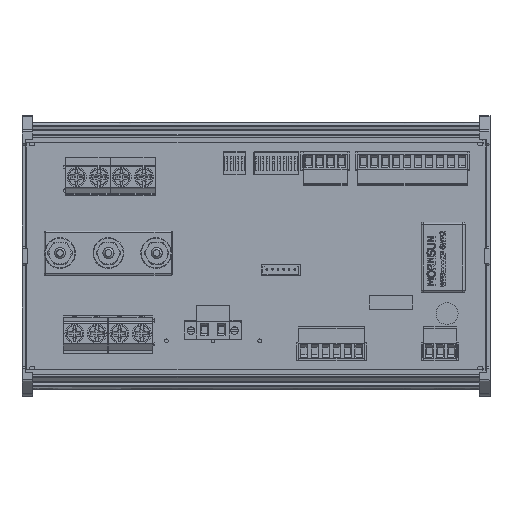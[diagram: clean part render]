
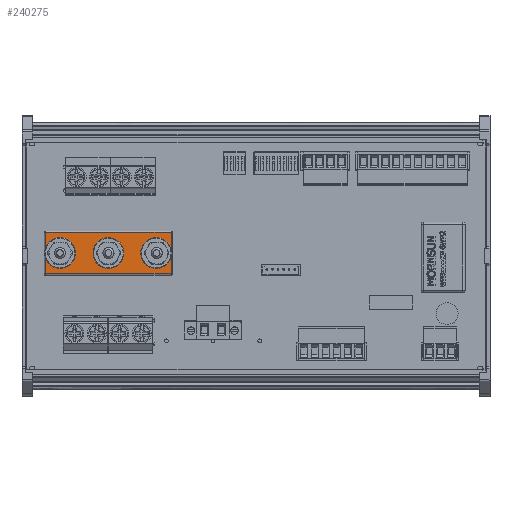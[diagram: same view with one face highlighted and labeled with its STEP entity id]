
A CAD part, top view. The second image highlights one B-rep face of the part: STEP entity #240275.
In plain terms, the highlighted planar face has unit normal (0, 0, 1).
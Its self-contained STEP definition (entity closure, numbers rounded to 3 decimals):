
#239698 = CYLINDRICAL_SURFACE('',#239699,0.5);
#239699 = AXIS2_PLACEMENT_3D('',#239700,#239701,#239702);
#239700 = CARTESIAN_POINT('',(0.5,0.,4.5));
#239701 = DIRECTION('',(0.,1.,0.));
#239702 = DIRECTION('',(-1.,0.,0.));
#239881 = VERTEX_POINT('',#239882);
#239882 = CARTESIAN_POINT('',(0.5,0.5,5.));
#239902 = EDGE_CURVE('',#239881,#239903,#239905,.T.);
#239903 = VERTEX_POINT('',#239904);
#239904 = CARTESIAN_POINT('',(0.5,19.5,5.));
#239905 = SURFACE_CURVE('',#239906,(#239910,#239917),.PCURVE_S1.);
#239906 = LINE('',#239907,#239908);
#239907 = CARTESIAN_POINT('',(0.5,0.,5.));
#239908 = VECTOR('',#239909,1.);
#239909 = DIRECTION('',(0.,1.,0.));
#239910 = PCURVE('',#239698,#239911);
#239911 = DEFINITIONAL_REPRESENTATION('',(#239912),#239916);
#239912 = LINE('',#239913,#239914);
#239913 = CARTESIAN_POINT('',(1.571,0.));
#239914 = VECTOR('',#239915,1.);
#239915 = DIRECTION('',(0.,1.));
#239916 = ( GEOMETRIC_REPRESENTATION_CONTEXT(2) 
PARAMETRIC_REPRESENTATION_CONTEXT() REPRESENTATION_CONTEXT('2D SPACE',''
  ) );
#239917 = PCURVE('',#239918,#239923);
#239918 = PLANE('',#239919);
#239919 = AXIS2_PLACEMENT_3D('',#239920,#239921,#239922);
#239920 = CARTESIAN_POINT('',(0.,0.,5.));
#239921 = DIRECTION('',(0.,0.,1.));
#239922 = DIRECTION('',(1.,0.,0.));
#239923 = DEFINITIONAL_REPRESENTATION('',(#239924),#239928);
#239924 = LINE('',#239925,#239926);
#239925 = CARTESIAN_POINT('',(0.5,0.));
#239926 = VECTOR('',#239927,1.);
#239927 = DIRECTION('',(0.,1.));
#239928 = ( GEOMETRIC_REPRESENTATION_CONTEXT(2) 
PARAMETRIC_REPRESENTATION_CONTEXT() REPRESENTATION_CONTEXT('2D SPACE',''
  ) );
#240082 = CYLINDRICAL_SURFACE('',#240083,0.5);
#240083 = AXIS2_PLACEMENT_3D('',#240084,#240085,#240086);
#240084 = CARTESIAN_POINT('',(0.,0.5,4.5));
#240085 = DIRECTION('',(1.,0.,0.));
#240086 = DIRECTION('',(0.,-1.,0.));
#240275 = ADVANCED_FACE('',(#240276),#239918,.T.);
#240276 = FACE_BOUND('',#240277,.T.);
#240277 = EDGE_LOOP('',(#240278,#240279,#240302,#240330));
#240278 = ORIENTED_EDGE('',*,*,#239902,.F.);
#240279 = ORIENTED_EDGE('',*,*,#240280,.T.);
#240280 = EDGE_CURVE('',#239881,#240281,#240283,.T.);
#240281 = VERTEX_POINT('',#240282);
#240282 = CARTESIAN_POINT('',(57.8,0.5,5.));
#240283 = SURFACE_CURVE('',#240284,(#240288,#240295),.PCURVE_S1.);
#240284 = LINE('',#240285,#240286);
#240285 = CARTESIAN_POINT('',(0.,0.5,5.));
#240286 = VECTOR('',#240287,1.);
#240287 = DIRECTION('',(1.,0.,0.));
#240288 = PCURVE('',#239918,#240289);
#240289 = DEFINITIONAL_REPRESENTATION('',(#240290),#240294);
#240290 = LINE('',#240291,#240292);
#240291 = CARTESIAN_POINT('',(0.,0.5));
#240292 = VECTOR('',#240293,1.);
#240293 = DIRECTION('',(1.,0.));
#240294 = ( GEOMETRIC_REPRESENTATION_CONTEXT(2) 
PARAMETRIC_REPRESENTATION_CONTEXT() REPRESENTATION_CONTEXT('2D SPACE',''
  ) );
#240295 = PCURVE('',#240082,#240296);
#240296 = DEFINITIONAL_REPRESENTATION('',(#240297),#240301);
#240297 = LINE('',#240298,#240299);
#240298 = CARTESIAN_POINT('',(4.712,0.));
#240299 = VECTOR('',#240300,1.);
#240300 = DIRECTION('',(0.,1.));
#240301 = ( GEOMETRIC_REPRESENTATION_CONTEXT(2) 
PARAMETRIC_REPRESENTATION_CONTEXT() REPRESENTATION_CONTEXT('2D SPACE',''
  ) );
#240302 = ORIENTED_EDGE('',*,*,#240303,.T.);
#240303 = EDGE_CURVE('',#240281,#240304,#240306,.T.);
#240304 = VERTEX_POINT('',#240305);
#240305 = CARTESIAN_POINT('',(57.8,19.5,5.));
#240306 = SURFACE_CURVE('',#240307,(#240311,#240318),.PCURVE_S1.);
#240307 = LINE('',#240308,#240309);
#240308 = CARTESIAN_POINT('',(57.8,0.,5.));
#240309 = VECTOR('',#240310,1.);
#240310 = DIRECTION('',(0.,1.,0.));
#240311 = PCURVE('',#239918,#240312);
#240312 = DEFINITIONAL_REPRESENTATION('',(#240313),#240317);
#240313 = LINE('',#240314,#240315);
#240314 = CARTESIAN_POINT('',(57.8,0.));
#240315 = VECTOR('',#240316,1.);
#240316 = DIRECTION('',(0.,1.));
#240317 = ( GEOMETRIC_REPRESENTATION_CONTEXT(2) 
PARAMETRIC_REPRESENTATION_CONTEXT() REPRESENTATION_CONTEXT('2D SPACE',''
  ) );
#240318 = PCURVE('',#240319,#240324);
#240319 = CYLINDRICAL_SURFACE('',#240320,0.5);
#240320 = AXIS2_PLACEMENT_3D('',#240321,#240322,#240323);
#240321 = CARTESIAN_POINT('',(57.8,0.,4.5));
#240322 = DIRECTION('',(0.,1.,0.));
#240323 = DIRECTION('',(1.,0.,0.));
#240324 = DEFINITIONAL_REPRESENTATION('',(#240325),#240329);
#240325 = LINE('',#240326,#240327);
#240326 = CARTESIAN_POINT('',(4.712,0.));
#240327 = VECTOR('',#240328,1.);
#240328 = DIRECTION('',(0.,1.));
#240329 = ( GEOMETRIC_REPRESENTATION_CONTEXT(2) 
PARAMETRIC_REPRESENTATION_CONTEXT() REPRESENTATION_CONTEXT('2D SPACE',''
  ) );
#240330 = ORIENTED_EDGE('',*,*,#240331,.F.);
#240331 = EDGE_CURVE('',#239903,#240304,#240332,.T.);
#240332 = SURFACE_CURVE('',#240333,(#240337,#240344),.PCURVE_S1.);
#240333 = LINE('',#240334,#240335);
#240334 = CARTESIAN_POINT('',(0.,19.5,5.));
#240335 = VECTOR('',#240336,1.);
#240336 = DIRECTION('',(1.,0.,0.));
#240337 = PCURVE('',#239918,#240338);
#240338 = DEFINITIONAL_REPRESENTATION('',(#240339),#240343);
#240339 = LINE('',#240340,#240341);
#240340 = CARTESIAN_POINT('',(0.,19.5));
#240341 = VECTOR('',#240342,1.);
#240342 = DIRECTION('',(1.,0.));
#240343 = ( GEOMETRIC_REPRESENTATION_CONTEXT(2) 
PARAMETRIC_REPRESENTATION_CONTEXT() REPRESENTATION_CONTEXT('2D SPACE',''
  ) );
#240344 = PCURVE('',#240345,#240350);
#240345 = CYLINDRICAL_SURFACE('',#240346,0.5);
#240346 = AXIS2_PLACEMENT_3D('',#240347,#240348,#240349);
#240347 = CARTESIAN_POINT('',(0.,19.5,4.5));
#240348 = DIRECTION('',(1.,0.,0.));
#240349 = DIRECTION('',(0.,1.,0.));
#240350 = DEFINITIONAL_REPRESENTATION('',(#240351),#240355);
#240351 = LINE('',#240352,#240353);
#240352 = CARTESIAN_POINT('',(1.571,0.));
#240353 = VECTOR('',#240354,1.);
#240354 = DIRECTION('',(0.,1.));
#240355 = ( GEOMETRIC_REPRESENTATION_CONTEXT(2) 
PARAMETRIC_REPRESENTATION_CONTEXT() REPRESENTATION_CONTEXT('2D SPACE',''
  ) );
